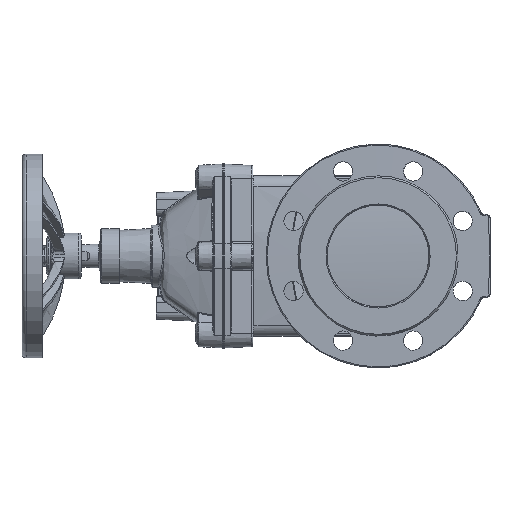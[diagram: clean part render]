
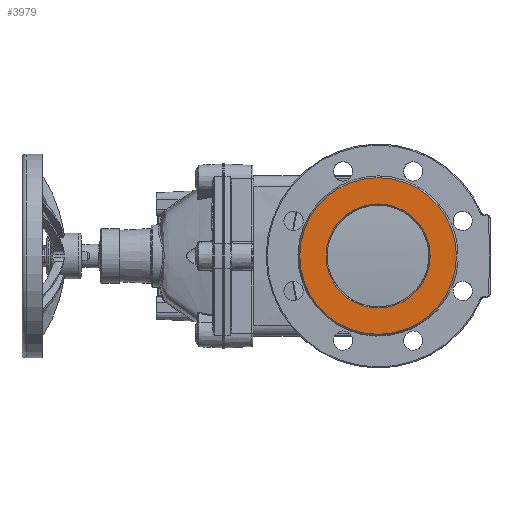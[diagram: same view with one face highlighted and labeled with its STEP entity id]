
A CAD part, left-side view. The second image highlights one B-rep face of the part: STEP entity #3979.
In plain terms, the highlighted planar face has unit normal (-1, 0, 0).
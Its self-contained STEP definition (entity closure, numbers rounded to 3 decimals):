
#3855 = EDGE_LOOP ( 'NONE', ( #3929 ) ) ;
#3860 = EDGE_CURVE ( 'NONE', #55666, #55666, #16186, .T. ) ;
#3868 = EDGE_CURVE ( 'NONE', #55664, #55664, #16200, .T. ) ;
#3929 = ORIENTED_EDGE ( 'NONE', *, *, #3868, .T. ) ;
#3950 = ORIENTED_EDGE ( 'NONE', *, *, #3860, .T. ) ;
#3959 = EDGE_LOOP ( 'NONE', ( #3950 ) ) ;
#3979 = ADVANCED_FACE ( 'NONE', ( #16362, #16421 ), #16416, .T. ) ;
#16085 = AXIS2_PLACEMENT_3D ( 'NONE', #16165, #16164, #16163 ) ;
#16163 = DIRECTION ( 'NONE',  ( 0., 0., 1. ) ) ;
#16164 = DIRECTION ( 'NONE',  ( -1., 0., 0. ) ) ;
#16165 = CARTESIAN_POINT ( 'NONE',  ( -95., 0., 0. ) ) ;
#16186 = CIRCLE ( 'NONE', #16085, 77. ) ;
#16190 = DIRECTION ( 'NONE',  ( 0., 0., 1. ) ) ;
#16191 = DIRECTION ( 'NONE',  ( 1., 0., 0. ) ) ;
#16192 = CARTESIAN_POINT ( 'NONE',  ( -95., 0., 0. ) ) ;
#16193 = AXIS2_PLACEMENT_3D ( 'NONE', #16192, #16191, #16190 ) ;
#16200 = CIRCLE ( 'NONE', #16193, 51.155 ) ;
#16362 = FACE_OUTER_BOUND ( 'NONE', #3959, .T. ) ;
#16371 = AXIS2_PLACEMENT_3D ( 'NONE', #16415, #16391, #16390 ) ;
#16390 = DIRECTION ( 'NONE',  ( 0., 0., 1. ) ) ;
#16391 = DIRECTION ( 'NONE',  ( -1., 0., 0. ) ) ;
#16415 = CARTESIAN_POINT ( 'NONE',  ( -95., 115.665, 0. ) ) ;
#16416 = PLANE ( 'NONE',  #16371 ) ;
#16421 = FACE_BOUND ( 'NONE', #3855, .T. ) ;
#55660 = CARTESIAN_POINT ( 'NONE',  ( -95., 0., 51.155 ) ) ;
#55664 = VERTEX_POINT ( 'NONE', #55660 ) ;
#55665 = CARTESIAN_POINT ( 'NONE',  ( -95., 0., 77. ) ) ;
#55666 = VERTEX_POINT ( 'NONE', #55665 ) ;
